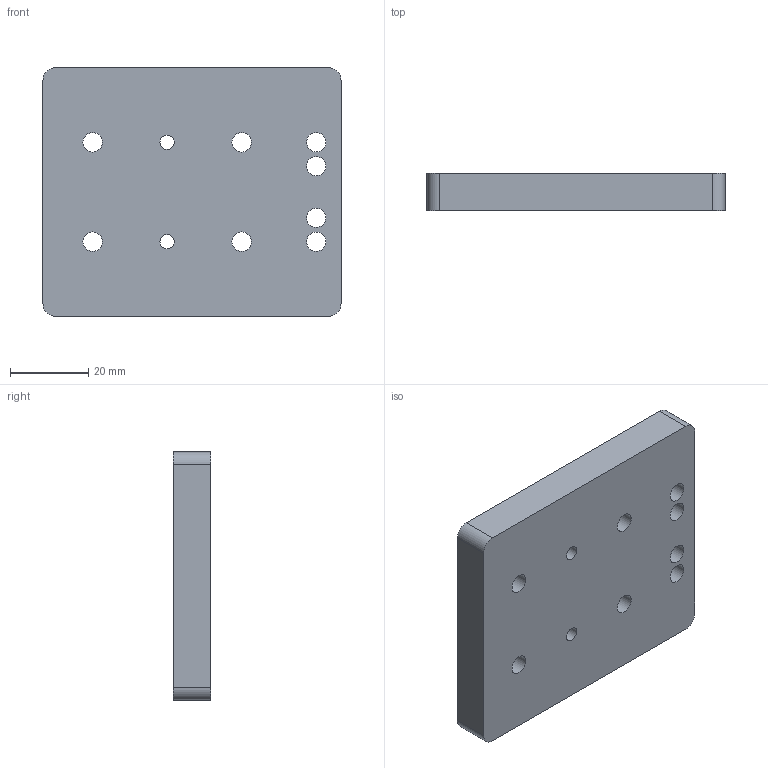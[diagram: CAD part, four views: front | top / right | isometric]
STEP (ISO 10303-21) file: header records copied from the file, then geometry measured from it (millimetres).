
FILE_DESCRIPTION( ( 'Unknown' ), '1' );
FILE_NAME( 'S:/A & P Tool/Start Button Swivel Mount/PDF - STP - IGES master files/AFSB-644-M-RL.stp', 'Unknown', ( 'Unknown' ), ( 'Unknown' ), 'PSStep 16.0.42', 'Unknown', ' ' );
FILE_SCHEMA( ( 'AUTOMOTIVE_DESIGN { 1 0 10303 214 1 1 1 1 }' ) );
Length unit declared in the file: millimetre
Products named in the file (1): 1
Bounding box: 76.2 x 9.53 x 63.5 mm (x, y, z)
Volume: 43822.6 mm3; surface area: 13398.5 mm2
Topology: 1 solids, 1 shells, 26 faces, 72 edges, 50 vertices
Faces by surface type: cylinder 18, plane 8
Full cylindrical faces by diameter (mm): 3.68 x2, 4.928 x4, 4.976 x4
Entity records: 1020 total; most frequent: DIRECTION 146, CARTESIAN_POINT 127, ORIENTED_EDGE 112, AXIS2_PLACEMENT_3D 63, EDGE_LOOP 58, EDGE_CURVE 56, VERTEX_POINT 44, FACE_OUTER_BOUND 36
